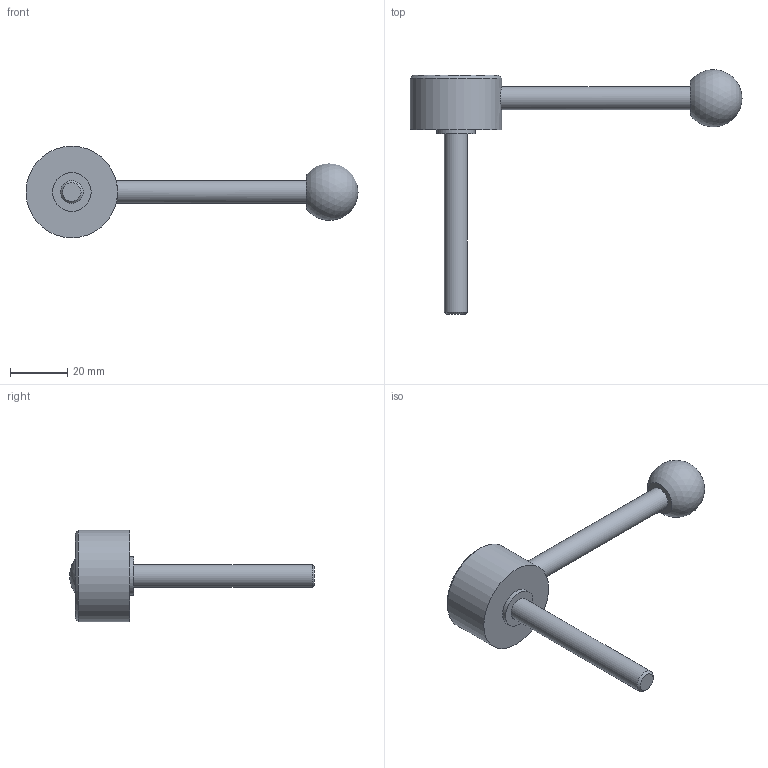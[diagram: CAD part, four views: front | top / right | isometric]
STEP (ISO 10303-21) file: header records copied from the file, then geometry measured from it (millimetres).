
FILE_DESCRIPTION( ( 'STEP AP203' ), '1' );
FILE_NAME( 'C:/Temp/Ganter_Step_05_03_2020/data/2_1/gn_125/gn_125_ms/gn_125_ms_d/Flat Adjustable Lever GN 125-32-M8-63-D.stp', '2020-03-05T11:00:45', ( 'License CC BY-ND 4.0' ), ( 'CADENAS' ), ' ', 'PARTsolutions', ' ' );
FILE_SCHEMA( ( 'CONFIG_CONTROL_DESIGN' ) );
Length unit declared in the file: millimetre
Products named in the file (1): _Flat Adjustable Lever GN 125-32-M8-63-D
Bounding box: 116 x 85.43 x 32 mm (x, y, z)
Volume: 25906.4 mm3; surface area: 7918.9 mm2
Topology: 1 solids, 1 shells, 14 faces, 23 edges, 15 vertices
Faces by surface type: plane 6, cylinder 5, cone 2, sphere 1
Full cylindrical faces by diameter (mm): 8 x2, 13.5 x1, 22 x1, 32 x1
Entity records: 384 total; most frequent: CARTESIAN_POINT 107, DIRECTION 54, AXIS2_PLACEMENT_3D 27, EDGE_LOOP 26, ORIENTED_EDGE 26, FACE_OUTER_BOUND 19, ADVANCED_FACE 14, VERTEX_POINT 14
